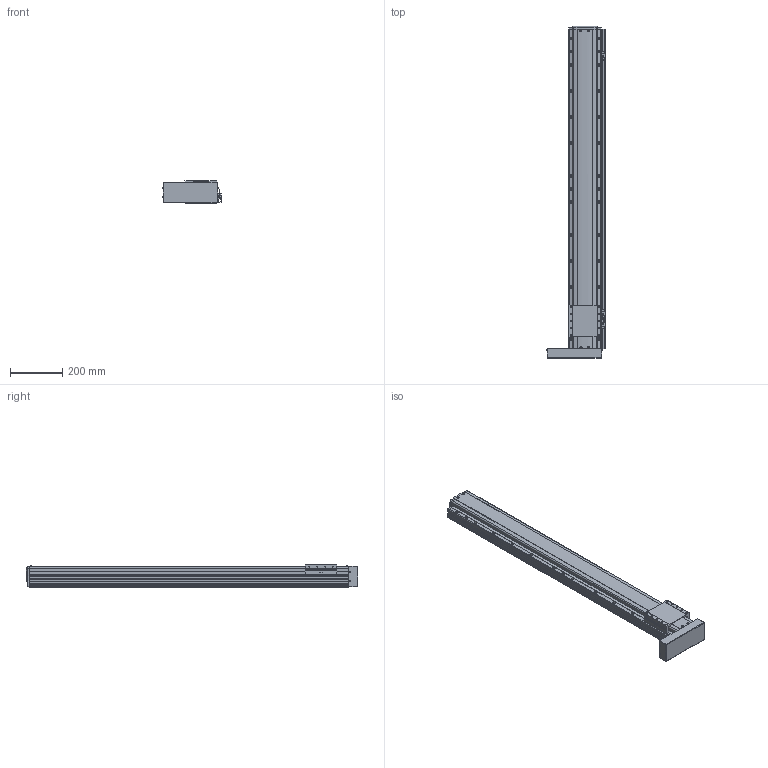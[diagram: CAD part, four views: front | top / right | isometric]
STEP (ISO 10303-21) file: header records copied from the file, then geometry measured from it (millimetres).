
FILE_DESCRIPTION(('STEP AP214'),'1');
FILE_NAME('Z:/Web/3D/PSA125/STP/PSA125-1000 (3D)/PSA125ㅁㅁ-1000PL+3SR.stp','2014-06-23T05:14:39',(' '),(' '),'Spatial InterOp 3D',' ',' ');
FILE_SCHEMA(('automotive_design'));
Length unit declared in the file: millimetre
Products named in the file (41): 스크루 : Round - M4.0 x 10.0; RRCV-PA120; SLIDE; BASE; FRCV-PA120-1(기준 뿔 제거); RR1500; 스크루 : Round - M4.0 x 6.0; 너트 : Square - M10.0 x 220.7419; BTCV - 60A; 스크루 : Round - M3.0 x 6.0; EE-SX674; SBK-SX674-352; M3.0 x 6.0; SRL-16x17-380L; SGD-PA95; 스크루 : Round - M3.0 x 8.0
Bounding box: 225.06 x 1268.6 x 86 mm (x, y, z)
Volume: 10991663.6 mm3; surface area: 991995.8 mm2
Topology: 41 solids, 41 shells, 2547 faces, 6793 edges, 4346 vertices
Faces by surface type: plane 1419, cylinder 748, cone 260, sphere 64, bspline 31, torus 25
Entity records: 101740 total; most frequent: CARTESIAN_POINT 16507, DIRECTION 13585, ORIENTED_EDGE 13278, EDGE_CURVE 6639, AXIS2_PLACEMENT_3D 4581, LINE 4423, VECTOR 4423, VERTEX_POINT 4346
